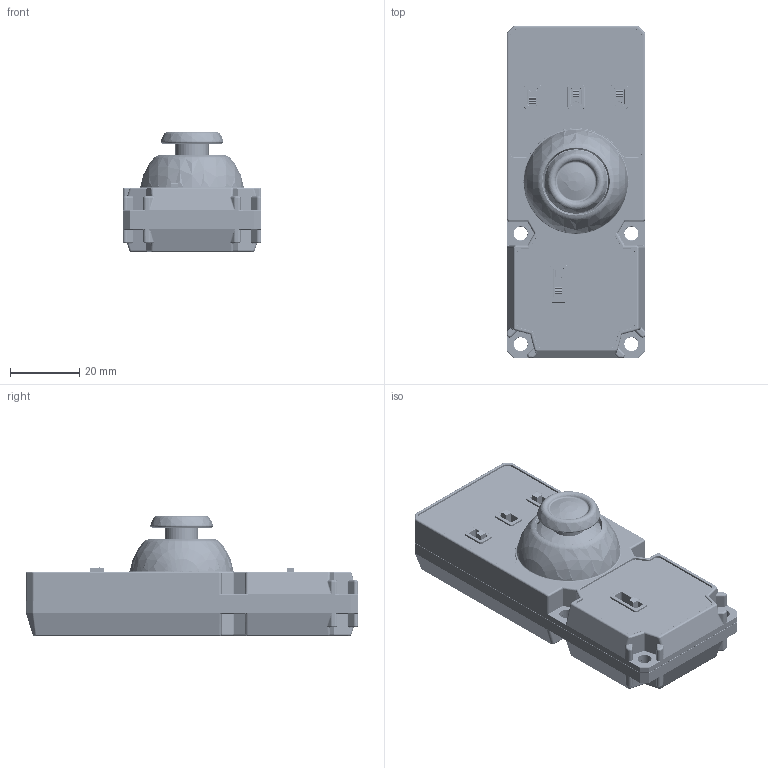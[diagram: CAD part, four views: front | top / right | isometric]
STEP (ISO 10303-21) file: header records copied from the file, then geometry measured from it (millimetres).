
FILE_DESCRIPTION(/* description */ (''),/* implementation_level */ '2;1');
FILE_NAME(/* name */ '3109-0008-0001 v8.step',/* time_stamp */ '2024-01-11T11:32:10-06:00',/* author */ (''),/* organization */ (''),/* preprocessor_version */ 'ST-DEVELOPER v20',/* originating_system */ 'Autodesk Translation Framework v12.14.0.127',/* authorisation */ '');
FILE_SCHEMA (('AUTOMOTIVE_DESIGN { 1 0 10303 214 3 1 1 }'));
Length unit declared in the file: millimetre
Products named in the file (46): (Unsaved); 3109-0008-0001-V1.0 Bot Case; 3109-0008-0001-V1.0 Top Case; 3109-0008-0001-V1.0 PCB; Servo Joystic V1.0; Board; Packages; 0603LED; RKJXV122400R; C918854 v8; Frame; Base_0; Base_1; Pot; Stick; Frame_0; Frame_1; Button; 1X03/90; 3x2.54mm Pin Head Right Angle; 2X03*90; 2x3x2.54mm Pin Head Right Angle; XT-30PWM; (28) XT30 90° Board Mount Male Connector; (28) XT30PW-M; MC; FH; MPin; 4POS_SLIDE_FP; C480357; Shell; BasePCB; Switch; Pins; C480345; C480345 (3); C480345 (1); C480345 (4); C480345 (2); C480345 (5)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
Assembly tree (60 placements, depth 8):
  (Unsaved)
    3109-0008-0001-V1.0 Bot Case
    3109-0008-0001-V1.0 Top Case
    3109-0008-0001-V1.0 PCB
      Servo Joystic V1.0
        Board
        Packages
          0603LED
          RKJXV122400R
            C918854 v8
              Frame
              Base_0
              Base_1
              Pot  x2
              Stick
              Frame_0
              Frame_1
              Button
          1X03/90
            3x2.54mm Pin Head Right Angle
          2X03*90
            2x3x2.54mm Pin Head Right Angle
          XT-30PWM
            (28) XT30 90° Board Mount Male Connector
              (28) XT30PW-M
                MC  x2
                FH
                MPin  x2
          4POS_SLIDE_FP
            C480357
              Shell
              BasePCB
              Switch
              Pins
          C480345
            C480345 (3)
              Shell (1)
              BasePCB (1)
              Switch (1)
              Pins (1)
          C480345 (1)
            C480345 (4)
              Shell (1)
              BasePCB (1)
              Switch (1)
              Pins (1)
          C480345 (2)
            C480345 (5)
              Shell (1)
              BasePCB (1)
              Switch (1)
              Pins (1)
    Joystick_PS4
    2815-0026-0008  x5
Bounding box: 40 x 96 x 34.66 mm (x, y, z)
Volume: 31563.7 mm3; surface area: 52562.8 mm2
Topology: 54 solids, 54 shells, 7137 faces, 18391 edges, 11376 vertices
Faces by surface type: cylinder 2763, plane 2677, torus 779, bspline 670, sphere 183, cone 65
Full cylindrical faces by diameter (mm): 0.2 x163, 0.35 x22, 0.9 x31, 1 x8, 1.2 x10, 1.25 x1, 1.4 x14, 1.5 x12, 1.517 x15, 1.7 x4, 1.8 x7, 2 x1, 2.5 x10, 2.6 x25, 3 x1, 3.5 x4, 4 x13, 4.5 x25, 5.6 x1, 7 x2, 8 x2, 8.75 x2, 9.65 x1, 11.35 x1, 21.9 x1, 23.7 x1
Entity records: 209306 total; most frequent: CARTESIAN_POINT 57061, DIRECTION 32241, ORIENTED_EDGE 31270, EDGE_CURVE 15635, AXIS2_PLACEMENT_3D 12027, VERTEX_POINT 9633, LINE 8187, VECTOR 8187
